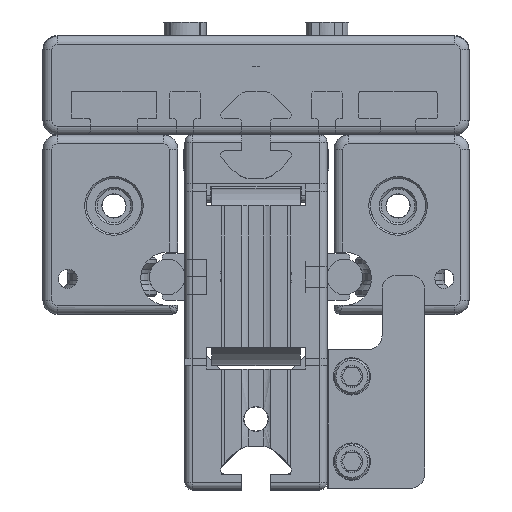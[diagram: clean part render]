
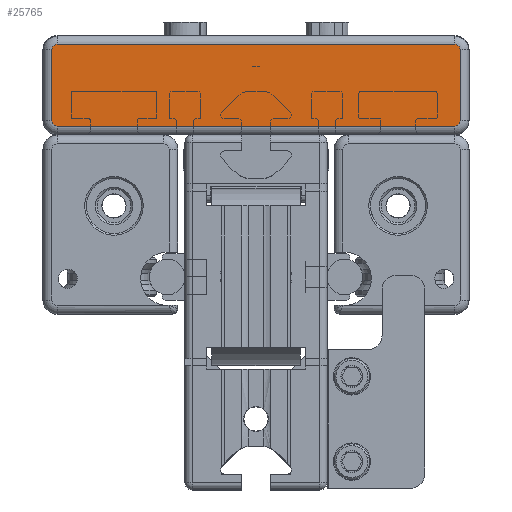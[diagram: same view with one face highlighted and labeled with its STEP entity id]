
A CAD part, front view. The second image highlights one B-rep face of the part: STEP entity #25765.
In plain terms, the highlighted planar face has unit normal (0, -1, 0) as drawn and (0, 0, 1) by its records, which use the part's own axes.
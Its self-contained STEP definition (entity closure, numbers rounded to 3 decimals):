
#1375=CIRCLE('',#27298,1.5);
#1376=CIRCLE('',#27299,1.5);
#1377=CIRCLE('',#27300,1.5);
#1378=CIRCLE('',#27301,1.5);
#4633=ORIENTED_EDGE('',*,*,#9131,.T.);
#4634=ORIENTED_EDGE('',*,*,#9132,.T.);
#4635=ORIENTED_EDGE('',*,*,#9133,.T.);
#4636=ORIENTED_EDGE('',*,*,#9134,.T.);
#4637=ORIENTED_EDGE('',*,*,#9135,.T.);
#4638=ORIENTED_EDGE('',*,*,#9136,.T.);
#4639=ORIENTED_EDGE('',*,*,#9137,.T.);
#4640=ORIENTED_EDGE('',*,*,#9138,.T.);
#9131=EDGE_CURVE('',#11595,#11596,#1375,.T.);
#9132=EDGE_CURVE('',#11596,#11597,#13579,.T.);
#9133=EDGE_CURVE('',#11597,#11598,#1376,.T.);
#9134=EDGE_CURVE('',#11598,#11599,#13580,.T.);
#9135=EDGE_CURVE('',#11599,#11600,#1377,.T.);
#9136=EDGE_CURVE('',#11600,#11601,#13581,.T.);
#9137=EDGE_CURVE('',#11601,#11602,#1378,.T.);
#9138=EDGE_CURVE('',#11602,#11595,#13582,.T.);
#11595=VERTEX_POINT('',#39541);
#11596=VERTEX_POINT('',#39542);
#11597=VERTEX_POINT('',#39544);
#11598=VERTEX_POINT('',#39546);
#11599=VERTEX_POINT('',#39548);
#11600=VERTEX_POINT('',#39550);
#11601=VERTEX_POINT('',#39552);
#11602=VERTEX_POINT('',#39554);
#13579=LINE('',#39543,#15415);
#13580=LINE('',#39547,#15416);
#13581=LINE('',#39551,#15417);
#13582=LINE('',#39555,#15418);
#15415=VECTOR('',#31013,1000.);
#15416=VECTOR('',#31016,1000.);
#15417=VECTOR('',#31019,1000.);
#15418=VECTOR('',#31022,1000.);
#16909=EDGE_LOOP('',(#4633,#4634,#4635,#4636,#4637,#4638,#4639,#4640));
#18405=FACE_BOUND('',#16909,.T.);
#19595=PLANE('',#27297);
#25765=ADVANCED_FACE('',(#18405),#19595,.T.);
#27297=AXIS2_PLACEMENT_3D('',#39539,#31009,#31010);
#27298=AXIS2_PLACEMENT_3D('',#39540,#31011,#31012);
#27299=AXIS2_PLACEMENT_3D('',#39545,#31014,#31015);
#27300=AXIS2_PLACEMENT_3D('',#39549,#31017,#31018);
#27301=AXIS2_PLACEMENT_3D('',#39553,#31020,#31021);
#31009=DIRECTION('',(0.,0.,1.));
#31010=DIRECTION('',(1.,0.,0.));
#31011=DIRECTION('',(0.,0.,1.));
#31012=DIRECTION('',(1.,0.,0.));
#31013=DIRECTION('',(0.,1.,0.));
#31014=DIRECTION('',(0.,0.,1.));
#31015=DIRECTION('',(1.,0.,0.));
#31016=DIRECTION('',(-1.,0.,0.));
#31017=DIRECTION('',(0.,0.,1.));
#31018=DIRECTION('',(1.,0.,0.));
#31019=DIRECTION('',(0.,-1.,0.));
#31020=DIRECTION('',(0.,0.,1.));
#31021=DIRECTION('',(1.,0.,0.));
#31022=DIRECTION('',(1.,0.,0.));
#39539=CARTESIAN_POINT('',(-60.,-14.,4.));
#39540=CARTESIAN_POINT('',(56.,-10.,4.));
#39541=CARTESIAN_POINT('',(56.,-11.5,4.));
#39542=CARTESIAN_POINT('',(57.5,-10.,4.));
#39543=CARTESIAN_POINT('',(57.5,10.,4.));
#39544=CARTESIAN_POINT('',(57.5,10.,4.));
#39545=CARTESIAN_POINT('',(56.,10.,4.));
#39546=CARTESIAN_POINT('',(56.,11.5,4.));
#39547=CARTESIAN_POINT('',(-56.,11.5,4.));
#39548=CARTESIAN_POINT('',(-56.,11.5,4.));
#39549=CARTESIAN_POINT('',(-56.,10.,4.));
#39550=CARTESIAN_POINT('',(-57.5,10.,4.));
#39551=CARTESIAN_POINT('',(-57.5,-10.,4.));
#39552=CARTESIAN_POINT('',(-57.5,-10.,4.));
#39553=CARTESIAN_POINT('',(-56.,-10.,4.));
#39554=CARTESIAN_POINT('',(-56.,-11.5,4.));
#39555=CARTESIAN_POINT('',(56.,-11.5,4.));
